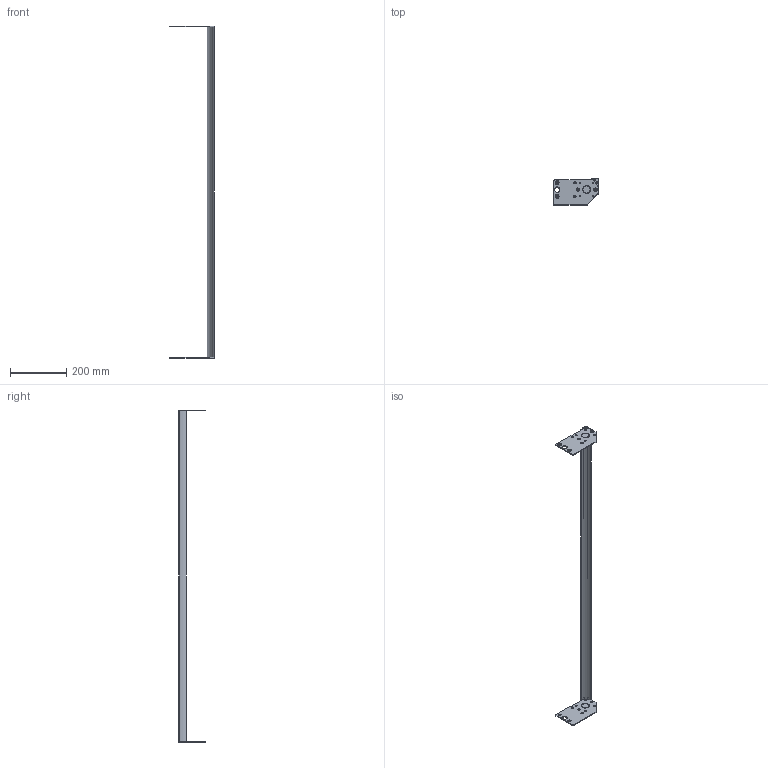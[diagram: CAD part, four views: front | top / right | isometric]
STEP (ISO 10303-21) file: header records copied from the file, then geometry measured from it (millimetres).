
FILE_DESCRIPTION((''),'2;1');
FILE_NAME('351039-46_ASM','2023-03-14T',('jenni.wallner'),(''),'PRO/ENGINEER BY PARAMETRIC TECHNOLOGY CORPORATION, 2012420','PRO/ENGINEER BY PARAMETRIC TECHNOLOGY CORPORATION, 2012420','');
FILE_SCHEMA(('CONFIG_CONTROL_DESIGN'));
Length unit declared in the file: inch
Products named in the file (6): 9304XXM_930410M; 350541; 350540; 350539-WW_350539-46; ASM0001_ASM; 351039-46_ASM
Assembly tree (8 placements, depth 3):
  351039-46_ASM
    ASM0001_ASM
      9304XXM_930410M  x4
      350541
      350540
      350539-WW_350539-46
Bounding box: 157.96 x 92.74 x 1180.49 mm (x, y, z)
Volume: 405990.5 mm3; surface area: 185614.9 mm2
Topology: 7 solids, 7 shells, 227 faces, 567 edges, 354 vertices
Faces by surface type: cylinder 93, cone 68, plane 66
Entity records: 5404 total; most frequent: DIRECTION 978, CARTESIAN_POINT 965, ORIENTED_EDGE 852, EDGE_CURVE 426, AXIS2_PLACEMENT_3D 390, VERTEX_POINT 276, EDGE_LOOP 216, CIRCLE 214
